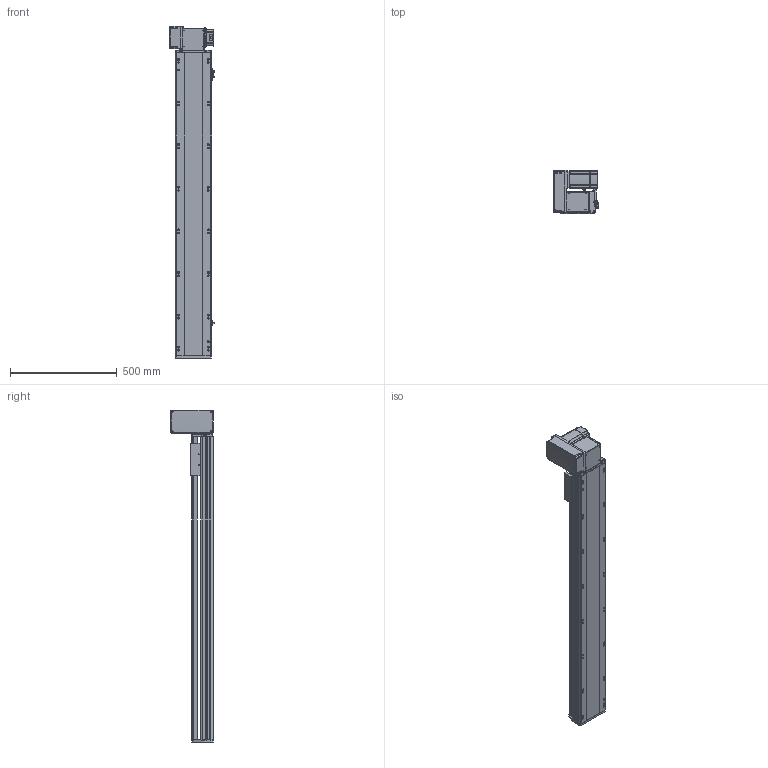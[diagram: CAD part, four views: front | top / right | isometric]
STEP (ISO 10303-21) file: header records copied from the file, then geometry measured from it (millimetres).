
FILE_DESCRIPTION (( 'STEP AP214' ), '1' );
FILE_NAME ('RTB17S-XX-1150-LW-M75-C4.STEP', '2025-12-12T01:04:48', ( '' ), ( '' ), 'SwSTEP 2.0', 'SolidWorks 2018', '' );
FILE_SCHEMA (( 'AUTOMOTIVE_DESIGN' ));
Length unit declared in the file: millimetre
Products named in the file (15): RTB17S-L-001-耜醱啣^RTB17S-XX-XX-LW-M75-C4; RTB22S-GY-018P^RTB17S-LW-々湍釱蚾饜-750W_RTB17S-XX-XX-LW-M75-C4; RTB17S-L-004-賑釱^RTB17S-賑釱_RTB17S-XX-XX-LW-M75-C4; RTB17S-L-007奻裔^RTB17S-XX-XX-LW-M75-C4; 750W萇儂^RTB17S-XX-XX-LW-M75-C4; RTH13-BL-012覜茼え俋离^RTB17S-賑釱_RTB17S-XX-XX-LW-M75-C4; RTB17S-LW-々湍釱蚾饜-750W^RTB17S-XX-XX-LW-M75-C4; RTB17S-賑釱^RTB17S-XX-XX-LW-M75-C4; RTB17S-XX-1150-LW-M75-C4; RTB22S-GY-017P^RTB17S-LW-々湍釱蚾饜-750W_RTB17S-XX-XX-LW-M75-C4; RTB17-R-011菁釱^RTB17S-XX-XX-LW-M75-C4; RTB22S-GY-008-M75--萇儂啣^RTB17S-LW-々湍釱蚾饜-750W_RTB17S-XX-XX-LW-M75-C4; RTB22S-GY-005P^RTB17S-LW-々湍釱蚾饜-750W_RTB17S-XX-XX-LW-M75-C4; RTB17S-L-014-T20-P75--々湍釱^RTB17S-LW-々湍釱蚾饜-750W_RTB17S-XX-XX-LW-M75-C4; EE672^RTB17S-XX-XX-LW-M75-C4
Assembly tree (17 placements, depth 3):
  RTB17S-XX-1150-LW-M75-C4
    RTB17-R-011菁釱^RTB17S-XX-XX-LW-M75-C4
    EE672^RTB17S-XX-XX-LW-M75-C4  x3
    RTB17S-L-001-耜醱啣^RTB17S-XX-XX-LW-M75-C4
    RTB17S-賑釱^RTB17S-XX-XX-LW-M75-C4
      RTB17S-L-004-賑釱^RTB17S-賑釱_RTB17S-XX-XX-LW-M75-C4
      RTH13-BL-012覜茼え俋离^RTB17S-賑釱_RTB17S-XX-XX-LW-M75-C4
    RTB17S-L-007奻裔^RTB17S-XX-XX-LW-M75-C4
    750W萇儂^RTB17S-XX-XX-LW-M75-C4
    RTB17S-LW-々湍釱蚾饜-750W^RTB17S-XX-XX-LW-M75-C4
      RTB17S-L-014-T20-P75--々湍釱^RTB17S-LW-々湍釱蚾饜-750W_RTB17S-XX-XX-LW-M75-C4
      RTB22S-GY-005P^RTB17S-LW-々湍釱蚾饜-750W_RTB17S-XX-XX-LW-M75-C4
      RTB22S-GY-017P^RTB17S-LW-々湍釱蚾饜-750W_RTB17S-XX-XX-LW-M75-C4  x2
      RTB22S-GY-008-M75--萇儂啣^RTB17S-LW-々湍釱蚾饜-750W_RTB17S-XX-XX-LW-M75-C4
      RTB22S-GY-018P^RTB17S-LW-々湍釱蚾饜-750W_RTB17S-XX-XX-LW-M75-C4
Bounding box: 210.4 x 201.5 x 1557.5 mm (x, y, z)
Volume: 13138812.9 mm3; surface area: 2255168.4 mm2
Topology: 17 solids, 17 shells, 2105 faces, 5836 edges, 3770 vertices
Faces by surface type: plane 972, cylinder 717, bspline 294, cone 110, sphere 8, torus 4
Entity records: 58870 total; most frequent: CARTESIAN_POINT 17300, ORIENTED_EDGE 8516, DIRECTION 7952, EDGE_CURVE 4258, AXIS2_PLACEMENT_3D 2790, VERTEX_POINT 2774, LINE 2372, VECTOR 2372
